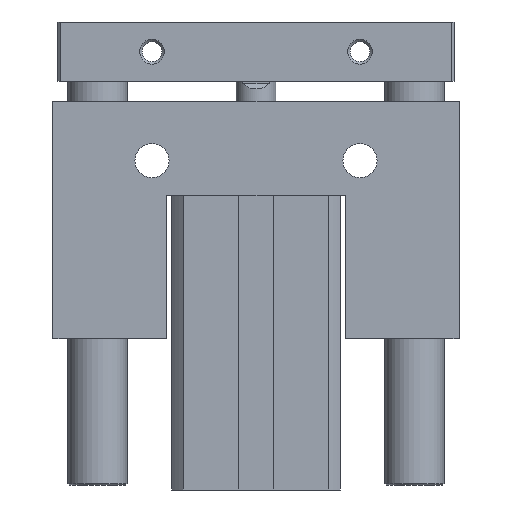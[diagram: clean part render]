
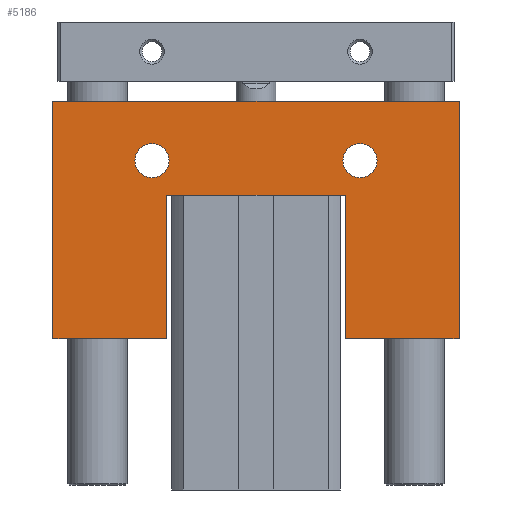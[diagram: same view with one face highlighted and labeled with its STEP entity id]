
A CAD part, front view. The second image highlights one B-rep face of the part: STEP entity #5186.
In plain terms, the highlighted planar face has unit normal (0, -1, 0).
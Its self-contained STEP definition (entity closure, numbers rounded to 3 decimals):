
#2112=CARTESIAN_POINT('',(-17.76,-16.817,30.5));
#2113=VERTEX_POINT('',#2112);
#2114=CARTESIAN_POINT('',(-40.76,-16.817,30.5));
#2115=VERTEX_POINT('',#2114);
#2116=CARTESIAN_POINT('',(-17.76,-16.817,30.5));
#2117=DIRECTION('',(-1.0,0.0,0.0));
#2118=VECTOR('',#2117,23.);
#2119=LINE('',#2116,#2118);
#2120=EDGE_CURVE('',#2113,#2115,#2119,.T.);
#2203=CARTESIAN_POINT('',(41.24,-16.817,30.5));
#2204=VERTEX_POINT('',#2203);
#2205=CARTESIAN_POINT('',(18.24,-16.817,30.5));
#2206=VERTEX_POINT('',#2205);
#2207=CARTESIAN_POINT('',(41.24,-16.817,30.5));
#2208=DIRECTION('',(-1.0,0.0,0.0));
#2209=VECTOR('',#2208,23.0);
#2210=LINE('',#2207,#2209);
#2211=EDGE_CURVE('',#2204,#2206,#2210,.T.);
#2266=CARTESIAN_POINT('',(-40.76,-16.817,78.5));
#2267=VERTEX_POINT('',#2266);
#2268=CARTESIAN_POINT('',(41.24,-16.817,78.5));
#2269=VERTEX_POINT('',#2268);
#2270=CARTESIAN_POINT('',(-40.76,-16.817,78.5));
#2271=DIRECTION('',(1.0,0.0,0.0));
#2272=VECTOR('',#2271,82.);
#2273=LINE('',#2270,#2272);
#2274=EDGE_CURVE('',#2267,#2269,#2273,.T.);
#4418=CARTESIAN_POINT('',(17.79,-16.817,66.5));
#4419=VERTEX_POINT('',#4418);
#4420=CARTESIAN_POINT('',(21.24,-16.817,66.5));
#4421=DIRECTION('',(0.0,1.0,0.0));
#4422=DIRECTION('',(1.0,0.0,0.0));
#4423=AXIS2_PLACEMENT_3D('',#4420,#4421,#4422);
#4424=CIRCLE('',#4423,3.45);
#4425=EDGE_CURVE('',#4419,#4419,#4424,.T.);
#4528=CARTESIAN_POINT('',(-24.21,-16.817,66.5));
#4529=VERTEX_POINT('',#4528);
#4530=CARTESIAN_POINT('',(-20.76,-16.817,66.5));
#4531=DIRECTION('',(0.0,1.0,0.0));
#4532=DIRECTION('',(1.0,0.0,0.0));
#4533=AXIS2_PLACEMENT_3D('',#4530,#4531,#4532);
#4534=CIRCLE('',#4533,3.45);
#4535=EDGE_CURVE('',#4529,#4529,#4534,.T.);
#4588=CARTESIAN_POINT('',(18.24,-16.817,59.5));
#4589=VERTEX_POINT('',#4588);
#4590=CARTESIAN_POINT('',(-17.76,-16.817,59.5));
#4591=VERTEX_POINT('',#4590);
#4592=CARTESIAN_POINT('',(18.24,-16.817,59.5));
#4593=DIRECTION('',(-1.0,0.0,0.0));
#4594=VECTOR('',#4593,36.0);
#4595=LINE('',#4592,#4594);
#4596=EDGE_CURVE('',#4589,#4591,#4595,.T.);
#5078=CARTESIAN_POINT('',(41.24,-16.817,78.5));
#5079=DIRECTION('',(0.0,0.0,-1.0));
#5080=VECTOR('',#5079,48.);
#5081=LINE('',#5078,#5080);
#5082=EDGE_CURVE('',#2269,#2204,#5081,.T.);
#5107=CARTESIAN_POINT('',(18.24,-16.817,30.5));
#5108=DIRECTION('',(0.0,0.0,1.0));
#5109=VECTOR('',#5108,29.);
#5110=LINE('',#5107,#5109);
#5111=EDGE_CURVE('',#2206,#4589,#5110,.T.);
#5124=CARTESIAN_POINT('',(-17.76,-16.817,59.5));
#5125=DIRECTION('',(0.0,0.0,-1.0));
#5126=VECTOR('',#5125,29.);
#5127=LINE('',#5124,#5126);
#5128=EDGE_CURVE('',#4591,#2113,#5127,.T.);
#5141=CARTESIAN_POINT('',(-40.76,-16.817,30.5));
#5142=DIRECTION('',(0.0,0.0,1.0));
#5143=VECTOR('',#5142,48.);
#5144=LINE('',#5141,#5143);
#5145=EDGE_CURVE('',#2115,#2267,#5144,.T.);
#5165=CARTESIAN_POINT('',(0.24,-16.817,56.05));
#5166=DIRECTION('',(0.0,1.0,0.0));
#5167=DIRECTION('',(0.0,0.0,1.0));
#5168=AXIS2_PLACEMENT_3D('',#5165,#5166,#5167);
#5169=PLANE('',#5168);
#5170=ORIENTED_EDGE('',*,*,#5082,.F.);
#5171=ORIENTED_EDGE('',*,*,#2274,.F.);
#5172=ORIENTED_EDGE('',*,*,#5145,.F.);
#5173=ORIENTED_EDGE('',*,*,#2120,.F.);
#5174=ORIENTED_EDGE('',*,*,#5128,.F.);
#5175=ORIENTED_EDGE('',*,*,#4596,.F.);
#5176=ORIENTED_EDGE('',*,*,#5111,.F.);
#5177=ORIENTED_EDGE('',*,*,#2211,.F.);
#5178=EDGE_LOOP('',(#5170,#5171,#5172,#5173,#5174,#5175,#5176,#5177));
#5179=FACE_OUTER_BOUND('',#5178,.T.);
#5180=ORIENTED_EDGE('',*,*,#4425,.T.);
#5181=EDGE_LOOP('',(#5180));
#5182=FACE_BOUND('',#5181,.T.);
#5183=ORIENTED_EDGE('',*,*,#4535,.T.);
#5184=EDGE_LOOP('',(#5183));
#5185=FACE_BOUND('',#5184,.T.);
#5186=ADVANCED_FACE('',(#5179,#5182,#5185),#5169,.F.);
